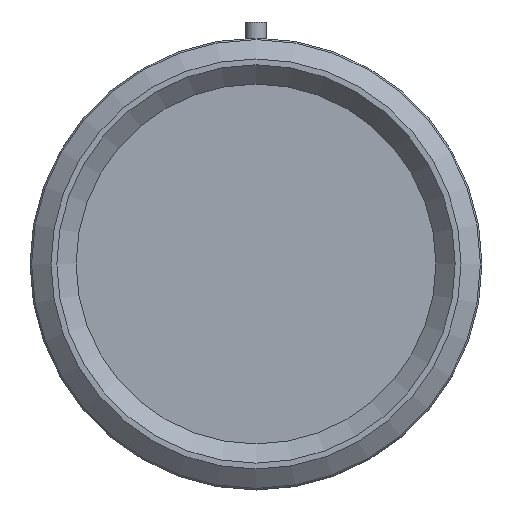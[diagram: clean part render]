
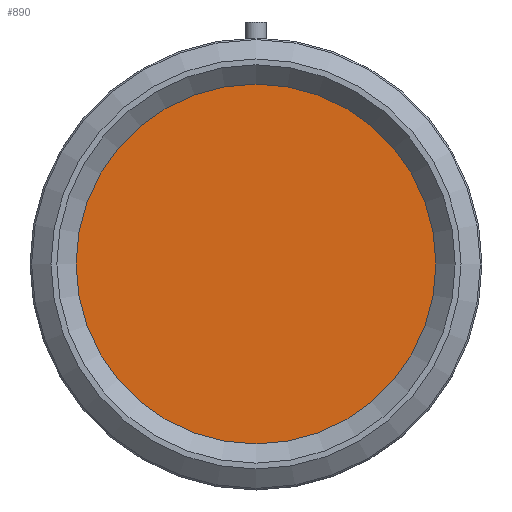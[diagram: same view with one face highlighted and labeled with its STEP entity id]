
A CAD part, top view. The second image highlights one B-rep face of the part: STEP entity #890.
In plain terms, the highlighted planar face has unit normal (0, 0, 1).
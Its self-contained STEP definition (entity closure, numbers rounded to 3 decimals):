
#847=CARTESIAN_POINT('',(21.5,0.,28.4));
#848=VERTEX_POINT('',#847);
#849=CARTESIAN_POINT('',(0.0,0.0,28.4));
#850=DIRECTION('',(0.0,0.0,1.0));
#851=DIRECTION('',(-1.0,0.0,0.0));
#852=AXIS2_PLACEMENT_3D('',#849,#850,#851);
#853=CIRCLE('',#852,21.5);
#854=EDGE_CURVE('',#848,#848,#853,.T.);
#882=CARTESIAN_POINT('',(0.0,0.0,28.4));
#883=DIRECTION('',(0.0,0.0,-1.0));
#884=DIRECTION('',(-1.0,0.0,0.0));
#885=AXIS2_PLACEMENT_3D('',#882,#883,#884);
#886=PLANE('',#885);
#887=ORIENTED_EDGE('',*,*,#854,.T.);
#888=EDGE_LOOP('',(#887));
#889=FACE_OUTER_BOUND('',#888,.T.);
#890=ADVANCED_FACE('',(#889),#886,.F.);
